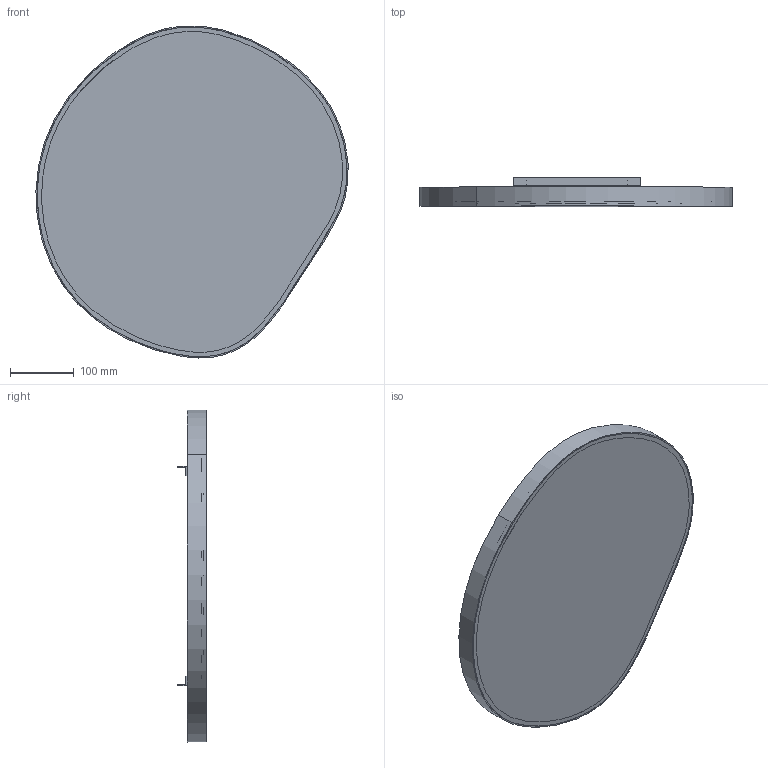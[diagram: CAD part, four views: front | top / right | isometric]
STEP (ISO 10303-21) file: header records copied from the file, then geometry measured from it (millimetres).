
FILE_DESCRIPTION(/* description */ (''),/* implementation_level */ '2;1');
FILE_NAME(/* name */ 'PHRP9K~L',/* time_stamp */ '2019-09-03T10:13:49+02:00',/* author */ (''),/* organization */ (''),/* preprocessor_version */ 'ST-DEVELOPER v16.5',/* originating_system */ '',/* authorisation */ '');
FILE_SCHEMA (('AUTOMOTIVE_DESIGN'));
Length unit declared in the file: millimetre
Products named in the file (1): Document
Bounding box: 490.7 x 45 x 521.81 mm (x, y, z)
Volume: 5822454.2 mm3; surface area: 947804.8 mm2
Topology: 5 solids, 6 shells, 51 faces, 128 edges, 92 vertices
Faces by surface type: bspline 29, plane 22
Entity records: 8645 total; most frequent: CARTESIAN_POINT 7798, ORIENTED_EDGE 244, EDGE_CURVE 124, VERTEX_POINT 84, EDGE_LOOP 73, B_SPLINE_CURVE_WITH_KNOTS 68, ADVANCED_FACE 51, FACE_OUTER_BOUND 51
